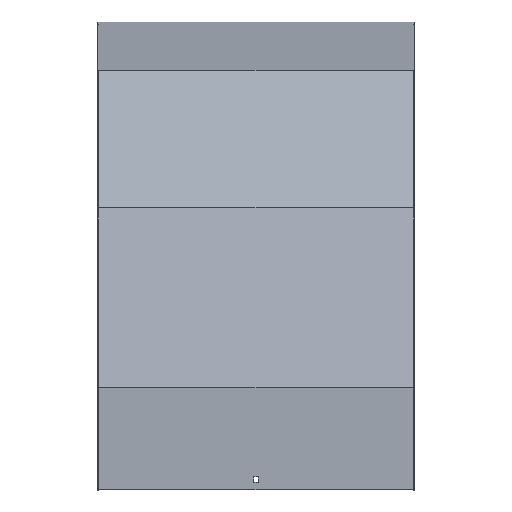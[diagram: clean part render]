
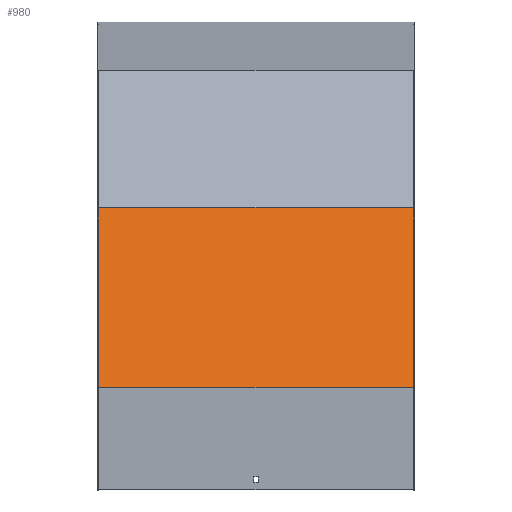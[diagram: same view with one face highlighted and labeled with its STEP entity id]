
A CAD part, top view. The second image highlights one B-rep face of the part: STEP entity #980.
In plain terms, the highlighted planar face has unit normal (0, 0.259, 0.966).
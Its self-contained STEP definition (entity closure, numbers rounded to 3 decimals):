
#3 = VERTEX_POINT ( 'NONE', #561 ) ;
#57 = CARTESIAN_POINT ( 'NONE',  ( 251.5, -281.047, 669.896 ) ) ;
#144 = DIRECTION ( 'NONE',  ( 0., -0.259, -0.966 ) ) ;
#152 = CARTESIAN_POINT ( 'NONE',  ( 251.5, -562.743, 745.376 ) ) ;
#179 = CARTESIAN_POINT ( 'NONE',  ( 251.5, -281.047, 669.896 ) ) ;
#194 = DIRECTION ( 'NONE',  ( -1., 0., 0. ) ) ;
#221 = LINE ( 'NONE', #912, #884 ) ;
#229 = CARTESIAN_POINT ( 'NONE',  ( 251.5, -275.871, 668.509 ) ) ;
#251 = VERTEX_POINT ( 'NONE', #984 ) ;
#282 = DIRECTION ( 'NONE',  ( 0., -0.966, 0.259 ) ) ;
#316 = DIRECTION ( 'NONE',  ( 0., -0.966, 0.259 ) ) ;
#347 = LINE ( 'NONE', #947, #899 ) ;
#458 = ORIENTED_EDGE ( 'NONE', *, *, #601, .F. ) ;
#459 = CARTESIAN_POINT ( 'NONE',  ( -251.5, -275.871, 668.509 ) ) ;
#462 = EDGE_CURVE ( 'NONE', #928, #251, #221, .T. ) ;
#517 = EDGE_CURVE ( 'NONE', #3, #251, #929, .T. ) ;
#561 = CARTESIAN_POINT ( 'NONE',  ( 251.5, -562.743, 745.376 ) ) ;
#575 = AXIS2_PLACEMENT_3D ( 'NONE', #57, #144, #1088 ) ;
#601 = EDGE_CURVE ( 'NONE', #1012, #3, #888, .T. ) ;
#603 = EDGE_LOOP ( 'NONE', ( #709, #1048, #458, #668 ) ) ;
#668 = ORIENTED_EDGE ( 'NONE', *, *, #1101, .T. ) ;
#709 = ORIENTED_EDGE ( 'NONE', *, *, #462, .T. ) ;
#829 = VECTOR ( 'NONE', #282, 1000. ) ;
#841 = FACE_OUTER_BOUND ( 'NONE', #603, .T. ) ;
#845 = DIRECTION ( 'NONE',  ( -1., 0., 0. ) ) ;
#884 = VECTOR ( 'NONE', #316, 1000. ) ;
#888 = LINE ( 'NONE', #179, #829 ) ;
#899 = VECTOR ( 'NONE', #194, 1000. ) ;
#912 = CARTESIAN_POINT ( 'NONE',  ( -251.5, -281.047, 669.896 ) ) ;
#920 = PLANE ( 'NONE',  #575 ) ;
#928 = VERTEX_POINT ( 'NONE', #459 ) ;
#929 = LINE ( 'NONE', #152, #1017 ) ;
#947 = CARTESIAN_POINT ( 'NONE',  ( 251.5, -275.871, 668.509 ) ) ;
#980 = ADVANCED_FACE ( 'NONE', ( #841 ), #920, .F. ) ;
#984 = CARTESIAN_POINT ( 'NONE',  ( -251.5, -562.743, 745.376 ) ) ;
#1012 = VERTEX_POINT ( 'NONE', #229 ) ;
#1017 = VECTOR ( 'NONE', #845, 1000. ) ;
#1048 = ORIENTED_EDGE ( 'NONE', *, *, #517, .F. ) ;
#1088 = DIRECTION ( 'NONE',  ( 0., 0.966, -0.259 ) ) ;
#1101 = EDGE_CURVE ( 'NONE', #1012, #928, #347, .T. ) ;
